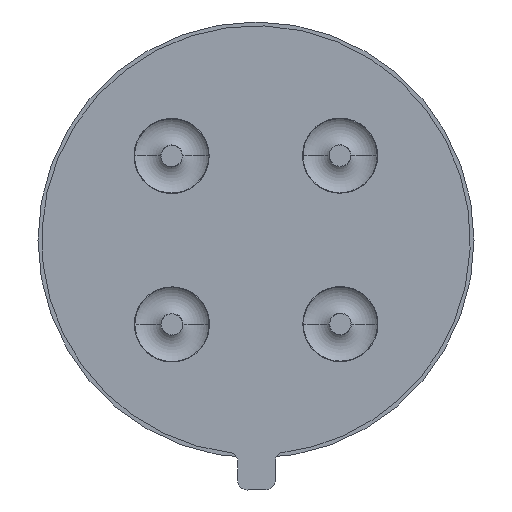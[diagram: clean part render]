
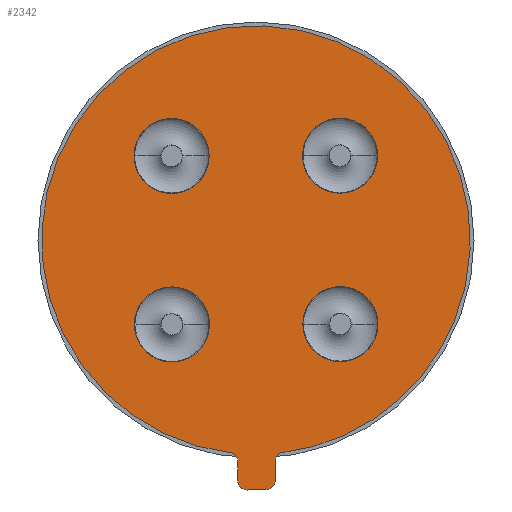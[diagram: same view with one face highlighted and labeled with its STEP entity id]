
A CAD part, front view. The second image highlights one B-rep face of the part: STEP entity #2342.
In plain terms, the highlighted planar face has unit normal (0, -1, 0).
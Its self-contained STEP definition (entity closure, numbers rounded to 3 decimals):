
#1848=CARTESIAN_POINT('',(0.,0.,0.));
#1849=DIRECTION('',(0.,-1.,0.));
#1850=DIRECTION('',(0.,0.,1.));
#1851=AXIS2_PLACEMENT_3D('',#1848,#1849,#1850);
#1853=CARTESIAN_POINT('',(0.,0.,0.));
#1854=DIRECTION('',(0.,-1.,0.));
#1855=DIRECTION('',(0.,0.,-1.));
#1856=AXIS2_PLACEMENT_3D('',#1853,#1854,#1855);
#1858=CARTESIAN_POINT('',(0.,0.,0.));
#1859=DIRECTION('',(0.,-1.,0.));
#1860=DIRECTION('',(-0.874,0.,-0.486));
#1861=AXIS2_PLACEMENT_3D('',#1858,#1859,#1860);
#1863=CARTESIAN_POINT('',(-4.135,0.,-2.362));
#1864=DIRECTION('',(0.,1.,0.));
#1865=DIRECTION('',(0.,0.,1.));
#1866=AXIS2_PLACEMENT_3D('',#1863,#1864,#1865);
#1868=CARTESIAN_POINT('',(-4.135,0.,-2.362));
#1869=DIRECTION('',(0.,1.,0.));
#1870=DIRECTION('',(-0.382,0.,0.924));
#1871=AXIS2_PLACEMENT_3D('',#1868,#1869,#1870);
#1873=DIRECTION('',(0.924,0.,0.382));
#1874=VECTOR('',#1873,0.406);
#1875=CARTESIAN_POINT('',(-4.586,0.,-2.333));
#1876=LINE('',#1875,#1874);
#1877=CARTESIAN_POINT('',(-4.663,0.,-2.148));
#1878=DIRECTION('',(0.,-1.,0.));
#1879=DIRECTION('',(0.,0.,-1.));
#1880=AXIS2_PLACEMENT_3D('',#1877,#1878,#1879);
#1882=CARTESIAN_POINT('',(-4.663,0.,-2.148));
#1883=DIRECTION('',(0.,-1.,0.));
#1884=DIRECTION('',(-0.924,0.,-0.383));
#1885=AXIS2_PLACEMENT_3D('',#1882,#1883,#1884);
#1887=DIRECTION('',(0.383,0.,-0.924));
#1888=VECTOR('',#1887,0.399);
#1889=CARTESIAN_POINT('',(-5.,0.,-1.856));
#1890=LINE('',#1889,#1888);
#1891=CARTESIAN_POINT('',(-4.816,0.,-1.78));
#1892=DIRECTION('',(0.,-1.,0.));
#1893=DIRECTION('',(-0.376,0.,0.927));
#1894=AXIS2_PLACEMENT_3D('',#1891,#1892,#1893);
#1896=DIRECTION('',(-0.927,0.,-0.376));
#1897=VECTOR('',#1896,0.403);
#1898=CARTESIAN_POINT('',(-4.517,0.,-1.443));
#1899=LINE('',#1898,#1897);
#1900=CARTESIAN_POINT('',(-4.592,0.,-1.257));
#1901=DIRECTION('',(0.,1.,0.));
#1902=DIRECTION('',(1.,0.,-0.022));
#1903=AXIS2_PLACEMENT_3D('',#1900,#1901,#1902);
#1905=CARTESIAN_POINT('',(2.347,0.,-0.972));
#1906=DIRECTION('',(0.,1.,0.));
#1907=DIRECTION('',(0.,0.,1.));
#1908=AXIS2_PLACEMENT_3D('',#1905,#1906,#1907);
#1910=CARTESIAN_POINT('',(2.347,0.,-0.972));
#1911=DIRECTION('',(0.,1.,0.));
#1912=DIRECTION('',(0.,0.,-1.));
#1913=AXIS2_PLACEMENT_3D('',#1910,#1911,#1912);
#1915=CARTESIAN_POINT('',(0.972,0.,2.347));
#1916=DIRECTION('',(0.,1.,0.));
#1917=DIRECTION('',(0.,0.,1.));
#1918=AXIS2_PLACEMENT_3D('',#1915,#1916,#1917);
#1920=CARTESIAN_POINT('',(0.972,0.,2.347));
#1921=DIRECTION('',(0.,1.,0.));
#1922=DIRECTION('',(0.,0.,-1.));
#1923=AXIS2_PLACEMENT_3D('',#1920,#1921,#1922);
#1925=CARTESIAN_POINT('',(-2.347,0.,0.972));
#1926=DIRECTION('',(0.,1.,0.));
#1927=DIRECTION('',(0.,0.,1.));
#1928=AXIS2_PLACEMENT_3D('',#1925,#1926,#1927);
#1930=CARTESIAN_POINT('',(-2.347,0.,0.972));
#1931=DIRECTION('',(0.,1.,0.));
#1932=DIRECTION('',(0.,0.,-1.));
#1933=AXIS2_PLACEMENT_3D('',#1930,#1931,#1932);
#1935=CARTESIAN_POINT('',(-0.972,0.,-2.347));
#1936=DIRECTION('',(0.,1.,0.));
#1937=DIRECTION('',(0.,0.,1.));
#1938=AXIS2_PLACEMENT_3D('',#1935,#1936,#1937);
#1940=CARTESIAN_POINT('',(-0.972,0.,-2.347));
#1941=DIRECTION('',(0.,1.,0.));
#1942=DIRECTION('',(0.,0.,-1.));
#1943=AXIS2_PLACEMENT_3D('',#1940,#1941,#1942);
#2025=CARTESIAN_POINT('',(2.347,0.,-1.772));
#2027=VERTEX_POINT('',#2025);
#2029=CARTESIAN_POINT('',(-4.517,0.,-1.443));
#2030=CARTESIAN_POINT('',(-4.891,0.,-1.594));
#2031=VERTEX_POINT('',#2029);
#2032=VERTEX_POINT('',#2030);
#2041=CARTESIAN_POINT('',(2.347,0.,-0.172));
#2042=VERTEX_POINT('',#2041);
#2043=CARTESIAN_POINT('',(-4.211,0.,-2.177));
#2044=CARTESIAN_POINT('',(-4.135,0.,-2.162));
#2045=VERTEX_POINT('',#2043);
#2046=VERTEX_POINT('',#2044);
#2047=CARTESIAN_POINT('',(-3.995,0.,-2.219));
#2048=VERTEX_POINT('',#2047);
#2051=CARTESIAN_POINT('',(-4.392,0.,-1.262));
#2052=VERTEX_POINT('',#2051);
#2053=CARTESIAN_POINT('',(-4.586,0.,-2.333));
#2054=VERTEX_POINT('',#2053);
#2057=CARTESIAN_POINT('',(-2.347,0.,1.772));
#2058=CARTESIAN_POINT('',(-2.347,0.,0.172));
#2059=VERTEX_POINT('',#2057);
#2060=VERTEX_POINT('',#2058);
#2061=CARTESIAN_POINT('',(-0.972,0.,-1.547));
#2062=CARTESIAN_POINT('',(-0.972,0.,-3.147));
#2063=VERTEX_POINT('',#2061);
#2064=VERTEX_POINT('',#2062);
#2065=CARTESIAN_POINT('',(0.972,0.,3.147));
#2066=CARTESIAN_POINT('',(0.972,0.,1.547));
#2067=VERTEX_POINT('',#2065);
#2068=VERTEX_POINT('',#2066);
#2069=CARTESIAN_POINT('',(0.,0.,-4.57));
#2070=VERTEX_POINT('',#2069);
#2073=CARTESIAN_POINT('',(0.,0.,4.57));
#2074=VERTEX_POINT('',#2073);
#2082=CARTESIAN_POINT('',(-5.,0.,-1.856));
#2084=VERTEX_POINT('',#2082);
#2095=CARTESIAN_POINT('',(-4.663,0.,-2.348));
#2096=VERTEX_POINT('',#2095);
#2103=CARTESIAN_POINT('',(-4.848,0.,-2.225));
#2105=VERTEX_POINT('',#2103);
#2288=CARTESIAN_POINT('',(0.,0.,0.));
#2289=DIRECTION('',(0.,-1.,0.));
#2290=DIRECTION('',(0.,0.,-1.));
#2291=AXIS2_PLACEMENT_3D('',#2288,#2289,#2290);
#2292=PLANE('',#2291);
#2293=ORIENTED_EDGE('',*,*,#2278,.F.);
#2295=ORIENTED_EDGE('',*,*,#2294,.F.);
#2297=ORIENTED_EDGE('',*,*,#2296,.F.);
#2299=ORIENTED_EDGE('',*,*,#2298,.F.);
#2301=ORIENTED_EDGE('',*,*,#2300,.F.);
#2303=ORIENTED_EDGE('',*,*,#2302,.F.);
#2305=ORIENTED_EDGE('',*,*,#2304,.F.);
#2307=ORIENTED_EDGE('',*,*,#2306,.F.);
#2309=ORIENTED_EDGE('',*,*,#2308,.F.);
#2311=ORIENTED_EDGE('',*,*,#2310,.F.);
#2313=ORIENTED_EDGE('',*,*,#2312,.F.);
#2315=ORIENTED_EDGE('',*,*,#2314,.F.);
#2316=EDGE_LOOP('',(#2293,#2295,#2297,#2299,#2301,#2303,#2305,#2307,#2309,#2311,
#2313,#2315));
#2317=FACE_OUTER_BOUND('',#2316,.F.);
#2319=ORIENTED_EDGE('',*,*,#2318,.F.);
#2321=ORIENTED_EDGE('',*,*,#2320,.F.);
#2322=EDGE_LOOP('',(#2319,#2321));
#2323=FACE_BOUND('',#2322,.F.);
#2325=ORIENTED_EDGE('',*,*,#2324,.F.);
#2327=ORIENTED_EDGE('',*,*,#2326,.F.);
#2328=EDGE_LOOP('',(#2325,#2327));
#2329=FACE_BOUND('',#2328,.F.);
#2331=ORIENTED_EDGE('',*,*,#2330,.F.);
#2333=ORIENTED_EDGE('',*,*,#2332,.F.);
#2334=EDGE_LOOP('',(#2331,#2333));
#2335=FACE_BOUND('',#2334,.F.);
#2337=ORIENTED_EDGE('',*,*,#2336,.F.);
#2339=ORIENTED_EDGE('',*,*,#2338,.F.);
#2340=EDGE_LOOP('',(#2337,#2339));
#2341=FACE_BOUND('',#2340,.F.);
#1852=CIRCLE('',#1851,4.57);
#1857=CIRCLE('',#1856,4.57);
#1862=CIRCLE('',#1861,4.57);
#1867=CIRCLE('',#1866,0.2);
#1872=CIRCLE('',#1871,0.2);
#1881=CIRCLE('',#1880,0.2);
#1886=CIRCLE('',#1885,0.2);
#1895=CIRCLE('',#1894,0.2);
#1904=CIRCLE('',#1903,0.2);
#1909=CIRCLE('',#1908,0.8);
#1914=CIRCLE('',#1913,0.8);
#1919=CIRCLE('',#1918,0.8);
#1924=CIRCLE('',#1923,0.8);
#1929=CIRCLE('',#1928,0.8);
#1934=CIRCLE('',#1933,0.8);
#1939=CIRCLE('',#1938,0.8);
#1944=CIRCLE('',#1943,0.8);
#2278=EDGE_CURVE('',#2074,#2052,#1852,.T.);
#2294=EDGE_CURVE('',#2070,#2074,#1857,.T.);
#2296=EDGE_CURVE('',#2048,#2070,#1862,.T.);
#2298=EDGE_CURVE('',#2046,#2048,#1867,.T.);
#2300=EDGE_CURVE('',#2045,#2046,#1872,.T.);
#2302=EDGE_CURVE('',#2054,#2045,#1876,.T.);
#2304=EDGE_CURVE('',#2096,#2054,#1881,.T.);
#2306=EDGE_CURVE('',#2105,#2096,#1886,.T.);
#2308=EDGE_CURVE('',#2084,#2105,#1890,.T.);
#2310=EDGE_CURVE('',#2032,#2084,#1895,.T.);
#2312=EDGE_CURVE('',#2031,#2032,#1899,.T.);
#2314=EDGE_CURVE('',#2052,#2031,#1904,.T.);
#2318=EDGE_CURVE('',#2042,#2027,#1909,.T.);
#2320=EDGE_CURVE('',#2027,#2042,#1914,.T.);
#2324=EDGE_CURVE('',#2067,#2068,#1919,.T.);
#2326=EDGE_CURVE('',#2068,#2067,#1924,.T.);
#2330=EDGE_CURVE('',#2059,#2060,#1929,.T.);
#2332=EDGE_CURVE('',#2060,#2059,#1934,.T.);
#2336=EDGE_CURVE('',#2063,#2064,#1939,.T.);
#2338=EDGE_CURVE('',#2064,#2063,#1944,.T.);
#2342=ADVANCED_FACE('',(#2317,#2323,#2329,#2335,#2341),#2292,.T.);
